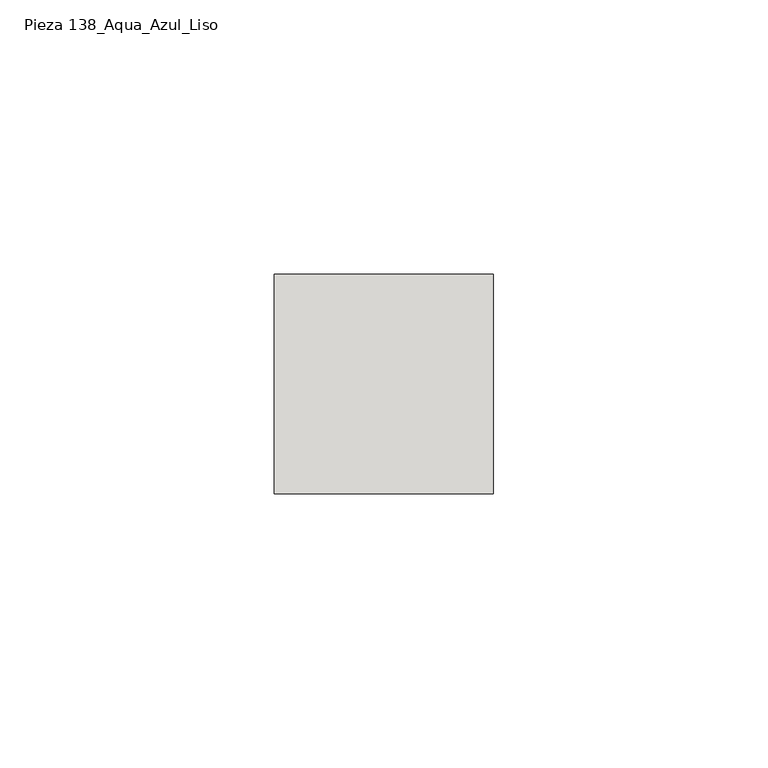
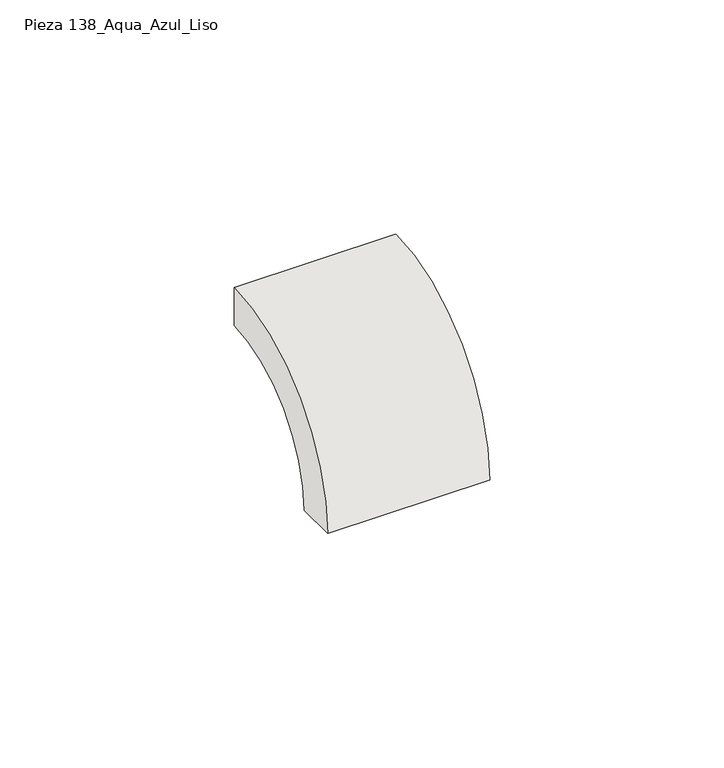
"""IFC4 building model written with IfcOpenShell, lengths in millimetres: slab geometry, ROSA GRES_138 : Pieza 138_Aqua_Azul_Liso."""

from ifc_helpers import new_model, si_unit, point, frame, frame_2d, origin, origin_2d, place, context, project, spatial, polyline, circle_curve, trimmed, segment, composite_curve, outline, extrude, source, transform, mapped, element, save


def pieza_138_aqua_azul_liso_f8f67494(model_context):
    return source(origin(), model_context, "Body", "SweptSolid", [
        extrude(outline(composite_curve([segment(polyline([(0.0, 40.0), (0.0, 30.0265886)]), True, "CONTINUOUS"), segment(trimmed(circle_curve(frame_2d((-0.0044453, 0.0044453)), 30.0221435), [point((0.0, 30.0265886))], [point((-30.0265886, 0.0))], True, "CARTESIAN"), True, "CONTINUOUS"), segment(polyline([(-30.0265886, 0.0), (-40.0, 0.0)]), True, "CONTINUOUS"), segment(trimmed(circle_curve(origin_2d(), 40.0), [point((-40.0, 0.0))], [point((0.0, 40.0))], False, "CARTESIAN"), True, "CONTINUOUS")], self_intersect=False)), frame((0.0, 0.0, 0.0), z_axis=(1.0, 0.0, 0.0), x_axis=(0.0, 1.0, 0.0)), (0.0, 0.0, 1.0), 39.9444136),
    ])


if __name__ == "__main__":
    model = new_model("IFC4")
    model_context = context("Model", 3, world=origin())
    ifc_project = project(units=[si_unit("LENGTHUNIT", "METRE", prefix="MILLI")], contexts=[model_context])
    site = spatial("IfcSite", under=ifc_project)
    building = spatial("IfcBuilding", under=site)
    placement = place(None, origin())
    pieza_138_aqua_azul_liso_shape = pieza_138_aqua_azul_liso_f8f67494(model_context)
    element("IfcSlab", 1, ObjectType="ROSA GRES_138 : Pieza 138_Aqua_Azul_Liso", at=placement, inside=building, context=model_context, shape_type="MappedRepresentation", body=[
        mapped(pieza_138_aqua_azul_liso_shape, transform((0.0, 0.0, 0.0), x_axis=(1.0, 0.0, 0.0), y_axis=(0.0, 1.0, 0.0), z_axis=(0.0, 0.0, 1.0))),
    ])
    save(model, "model.ifc")
